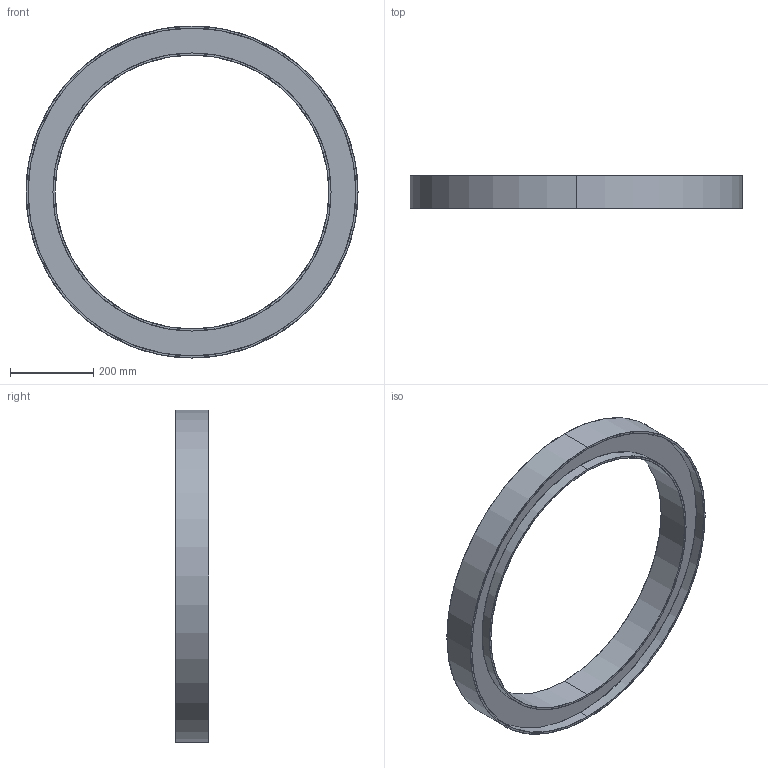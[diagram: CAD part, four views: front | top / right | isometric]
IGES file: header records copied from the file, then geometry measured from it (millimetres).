
Start section: SolidWorks IGES file using analytic representation for surfaces
Global section: file name: C:\Users\danielet\Desktop\3D CARLOS\ALISO-P374220-3D\ALISO-P374220-3D.IGS; native system: SolidWorks 2018; preprocessor: SolidWorks 2018; author: danielet; date: 220207.123912; units: millimetre
Bounding box: 800 x 80 x 800 mm (x, y, z)
Surface area: 807263.9 mm2 (no closed solid volume)
Topology: 0 solids, 0 shells, 18 faces, 816 edges, 816 vertices
Faces by surface type: revolution 12, bspline 6
